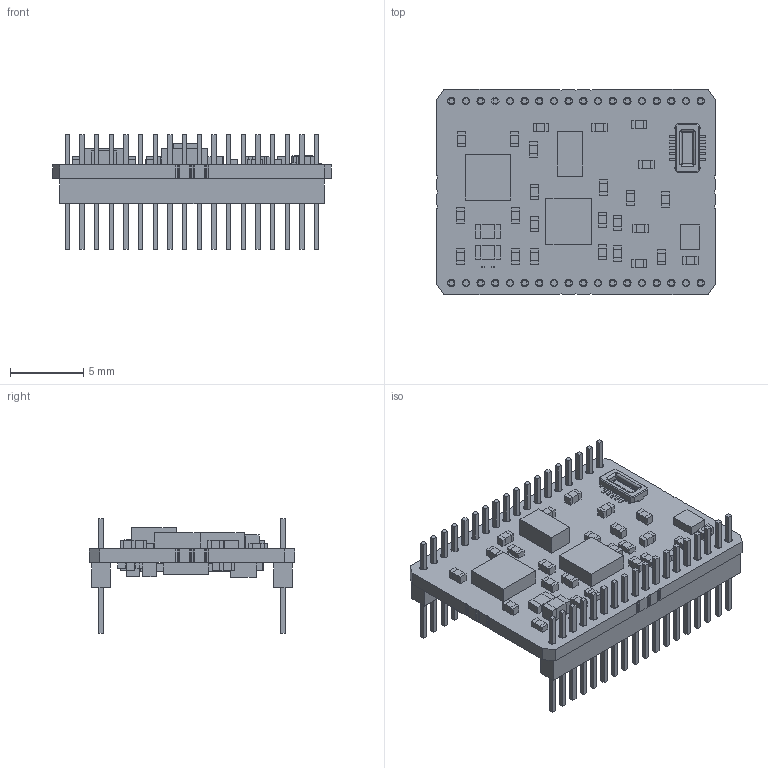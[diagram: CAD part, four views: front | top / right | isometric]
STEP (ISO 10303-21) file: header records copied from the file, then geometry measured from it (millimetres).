
FILE_DESCRIPTION(('Open CASCADE Model'),'2;1');
FILE_NAME('Open CASCADE Shape Model','2015-03-23T13:21:02',('Author'),( 'Open CASCADE'),'Open CASCADE STEP processor 6.5','Open CASCADE 6.5' ,'Unknown');
FILE_SCHEMA(('AUTOMOTIVE_DESIGN { 1 0 10303 214 1 1 1 1 }'));
Length unit declared in the file: millimetre
Products named in the file (108): PCB; Board; LJ1; 698139152; Extruded; R19; 698138768; 698105744; C4; 698141200; 698141072; R8; R7; C33; 698141456; 698141328; C32; IC7; 698140304; R10; R9; 698141840; IC6; 698140176; C30; 698140944; R4; 698141712; 698141584; R3; R2; R1; IC2; 698140688; C28; C27; C26; C25; C24; C1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
Assembly tree (287 placements, depth 4):
  PCB
    Board
    LJ1
      698139152  x2
        Extruded
    R19
      698138768  x2
        Extruded
      698105744
        Extruded
    C4
      698141200  x2
        Extruded
      698141072
        Extruded
    R8
      698138768  x2
        Extruded
      698105744
        Extruded
    R7
      698138768  x2
        Extruded
      698105744
        Extruded
    C33
      698141456  x2
        Extruded
      698141328
        Extruded
    C32
      698141456  x2
        Extruded
      698141328
        Extruded
    IC7
      698140304
        Extruded
    R10
      698138768  x2
        Extruded
      698105744
        Extruded
    R9
      698141840  x2
        Extruded
      698105744
        Extruded
    IC6
      698140176
        Extruded
    C30
      698140944  x2
        Extruded
      698141328
        Extruded
    R4
      698141712  x2
        Extruded
      698141584
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Bounding box: 19 x 14 x 7.8 mm (x, y, z)
Volume: 433.8 mm3; surface area: 1707.2 mm2
Topology: 203 solids, 203 shells, 1628 faces, 3529 edges, 2322 vertices
Faces by surface type: plane 1525, cylinder 103
Full cylindrical faces by diameter (mm): 0.5 x35
Entity records: 42815 total; most frequent: CARTESIAN_POINT 11975, DIRECTION 5599, LINE 3291, VECTOR 3291, ORIENTED_EDGE 2738, PCURVE 2738, DEFINITIONAL_REPRESENTATION 2738, EDGE_CURVE 1369
